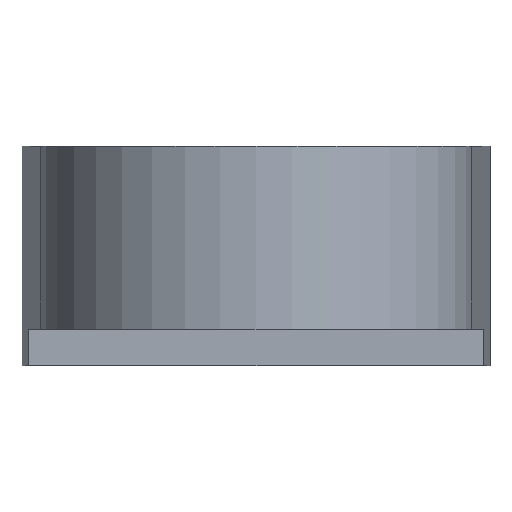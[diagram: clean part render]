
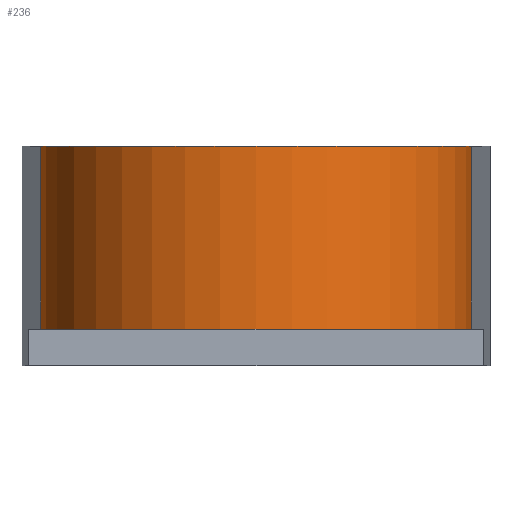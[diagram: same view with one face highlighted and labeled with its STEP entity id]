
A CAD part, left-side view. The second image highlights one B-rep face of the part: STEP entity #236.
In plain terms, the highlighted cylindrical face has radius 29.5 mm (diameter 59 mm), a partial arc.
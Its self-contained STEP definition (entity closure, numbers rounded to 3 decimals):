
#145=CYLINDRICAL_SURFACE('',#914,29.5);
#168=CIRCLE('',#864,29.5);
#195=CIRCLE('',#913,29.5);
#236=ADVANCED_FACE('',(#285),#145,.T.);
#285=FACE_OUTER_BOUND('',#342,.T.);
#342=EDGE_LOOP('',(#520,#521,#522,#523));
#520=ORIENTED_EDGE('',*,*,#717,.F.);
#521=ORIENTED_EDGE('',*,*,#716,.T.);
#522=ORIENTED_EDGE('',*,*,#667,.F.);
#523=ORIENTED_EDGE('',*,*,#709,.F.);
#585=VERTEX_POINT('',#1251);
#586=VERTEX_POINT('',#1253);
#615=VERTEX_POINT('',#1342);
#619=VERTEX_POINT('',#1354);
#667=EDGE_CURVE('',#585,#586,#168,.T.);
#709=EDGE_CURVE('',#615,#585,#766,.T.);
#716=EDGE_CURVE('',#619,#586,#773,.T.);
#717=EDGE_CURVE('',#619,#615,#195,.T.);
#766=LINE('',#1343,#816);
#773=LINE('',#1356,#823);
#816=VECTOR('',#1122,1.);
#823=VECTOR('',#1133,1.);
#864=AXIS2_PLACEMENT_3D('',#1252,#1015,#1016);
#913=AXIS2_PLACEMENT_3D('',#1358,#1136,#1137);
#914=AXIS2_PLACEMENT_3D('',#1359,#1138,#1139);
#1015=DIRECTION('',(0.,0.,1.));
#1016=DIRECTION('',(1.,0.,0.));
#1122=DIRECTION('',(0.,0.,1.));
#1133=DIRECTION('',(0.,0.,1.));
#1136=DIRECTION('',(0.,0.,-1.));
#1137=DIRECTION('',(1.,0.,0.));
#1138=DIRECTION('',(0.,0.,1.));
#1139=DIRECTION('',(-1.,0.,0.));
#1251=CARTESIAN_POINT('',(-1.989,29.433,30.));
#1252=CARTESIAN_POINT('',(0.,0.,30.));
#1253=CARTESIAN_POINT('',(-1.989,-29.433,30.));
#1342=CARTESIAN_POINT('',(-1.989,29.433,5.));
#1343=CARTESIAN_POINT('',(-1.989,29.433,0.));
#1354=CARTESIAN_POINT('',(-1.989,-29.433,5.));
#1356=CARTESIAN_POINT('',(-1.989,-29.433,0.));
#1358=CARTESIAN_POINT('',(0.,0.,5.));
#1359=CARTESIAN_POINT('',(0.,0.,0.));
